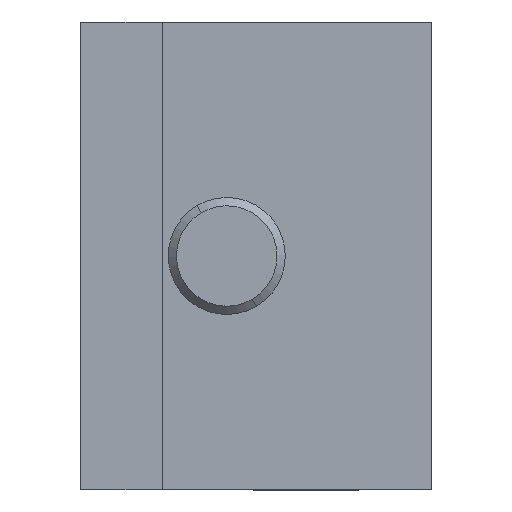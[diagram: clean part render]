
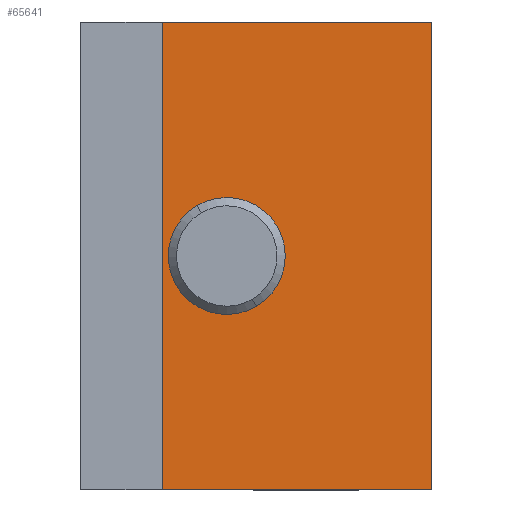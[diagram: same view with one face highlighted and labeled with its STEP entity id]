
A CAD part, left-side view. The second image highlights one B-rep face of the part: STEP entity #65641.
In plain terms, the highlighted planar face has unit normal (-1, 0, 0).
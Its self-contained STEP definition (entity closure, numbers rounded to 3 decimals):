
#393 = AXIS2_PLACEMENT_3D ( 'NONE', #79812, #59476, #66262 ) ;
#4412 = CARTESIAN_POINT ( 'NONE',  ( -12.5, 17.5, -2. ) ) ;
#5054 = CIRCLE ( 'NONE', #393, 2. ) ;
#5075 = CARTESIAN_POINT ( 'NONE',  ( -12.5, 23., 20. ) ) ;
#6023 = DIRECTION ( 'NONE',  ( 0., 0., -1. ) ) ;
#6068 = CARTESIAN_POINT ( 'NONE',  ( -12.5, 23., 20. ) ) ;
#8811 = CARTESIAN_POINT ( 'NONE',  ( -12.5, 0., 20. ) ) ;
#9250 = EDGE_LOOP ( 'NONE', ( #66507, #46705 ) ) ;
#9552 = EDGE_CURVE ( 'NONE', #43875, #69828, #61621, .T. ) ;
#13610 = DIRECTION ( 'NONE',  ( 0., 0., -1. ) ) ;
#15966 = VECTOR ( 'NONE', #13610, 1000. ) ;
#20513 = DIRECTION ( 'NONE',  ( 1., 0., 0. ) ) ;
#22724 = CARTESIAN_POINT ( 'NONE',  ( -12.5, 17.5, 0. ) ) ;
#23977 = CARTESIAN_POINT ( 'NONE',  ( -12.5, 17.5, 2. ) ) ;
#25909 = CARTESIAN_POINT ( 'NONE',  ( -12.5, 23., -20. ) ) ;
#26478 = ORIENTED_EDGE ( 'NONE', *, *, #50738, .F. ) ;
#33145 = DIRECTION ( 'NONE',  ( 0., -1., 0. ) ) ;
#34385 = CARTESIAN_POINT ( 'NONE',  ( -12.5, 0., 20. ) ) ;
#39240 = DIRECTION ( 'NONE',  ( 0., 0., -1. ) ) ;
#43518 = LINE ( 'NONE', #34385, #15966 ) ;
#43875 = VERTEX_POINT ( 'NONE', #69852 ) ;
#46482 = LINE ( 'NONE', #75937, #52770 ) ;
#46705 = ORIENTED_EDGE ( 'NONE', *, *, #62902, .T. ) ;
#47876 = EDGE_LOOP ( 'NONE', ( #55815, #93535, #26478, #94325 ) ) ;
#50738 = EDGE_CURVE ( 'NONE', #88491, #84208, #72223, .T. ) ;
#52162 = DIRECTION ( 'NONE',  ( 0., 0., -1. ) ) ;
#52770 = VECTOR ( 'NONE', #39240, 1000. ) ;
#53296 = VECTOR ( 'NONE', #95348, 1000. ) ;
#55815 = ORIENTED_EDGE ( 'NONE', *, *, #9552, .T. ) ;
#57074 = EDGE_CURVE ( 'NONE', #72129, #81251, #69754, .T. ) ;
#57499 = CARTESIAN_POINT ( 'NONE',  ( -12.5, 0., -20. ) ) ;
#58371 = EDGE_CURVE ( 'NONE', #88491, #43875, #46482, .T. ) ;
#59476 = DIRECTION ( 'NONE',  ( 1., 0., 0. ) ) ;
#61621 = LINE ( 'NONE', #25909, #61751 ) ;
#61751 = VECTOR ( 'NONE', #33145, 1000. ) ;
#62902 = EDGE_CURVE ( 'NONE', #81251, #72129, #5054, .T. ) ;
#65641 = ADVANCED_FACE ( 'NONE', ( #79881, #87136 ), #72179, .F. ) ;
#66262 = DIRECTION ( 'NONE',  ( 0., 0., -1. ) ) ;
#66507 = ORIENTED_EDGE ( 'NONE', *, *, #57074, .T. ) ;
#68080 = DIRECTION ( 'NONE',  ( 1., 0., 0. ) ) ;
#68148 = AXIS2_PLACEMENT_3D ( 'NONE', #22724, #68080, #52162 ) ;
#69754 = CIRCLE ( 'NONE', #68148, 2. ) ;
#69828 = VERTEX_POINT ( 'NONE', #57499 ) ;
#69852 = CARTESIAN_POINT ( 'NONE',  ( -12.5, 23., -20. ) ) ;
#72129 = VERTEX_POINT ( 'NONE', #4412 ) ;
#72179 = PLANE ( 'NONE',  #73001 ) ;
#72223 = LINE ( 'NONE', #6068, #53296 ) ;
#73001 = AXIS2_PLACEMENT_3D ( 'NONE', #5075, #20513, #6023 ) ;
#75913 = CARTESIAN_POINT ( 'NONE',  ( -12.5, 23., 20. ) ) ;
#75937 = CARTESIAN_POINT ( 'NONE',  ( -12.5, 23., 20. ) ) ;
#79812 = CARTESIAN_POINT ( 'NONE',  ( -12.5, 17.5, 0. ) ) ;
#79881 = FACE_BOUND ( 'NONE', #9250, .T. ) ;
#81251 = VERTEX_POINT ( 'NONE', #23977 ) ;
#84208 = VERTEX_POINT ( 'NONE', #8811 ) ;
#87136 = FACE_OUTER_BOUND ( 'NONE', #47876, .T. ) ;
#88491 = VERTEX_POINT ( 'NONE', #75913 ) ;
#89699 = EDGE_CURVE ( 'NONE', #84208, #69828, #43518, .T. ) ;
#93535 = ORIENTED_EDGE ( 'NONE', *, *, #89699, .F. ) ;
#94325 = ORIENTED_EDGE ( 'NONE', *, *, #58371, .T. ) ;
#95348 = DIRECTION ( 'NONE',  ( 0., -1., 0. ) ) ;
